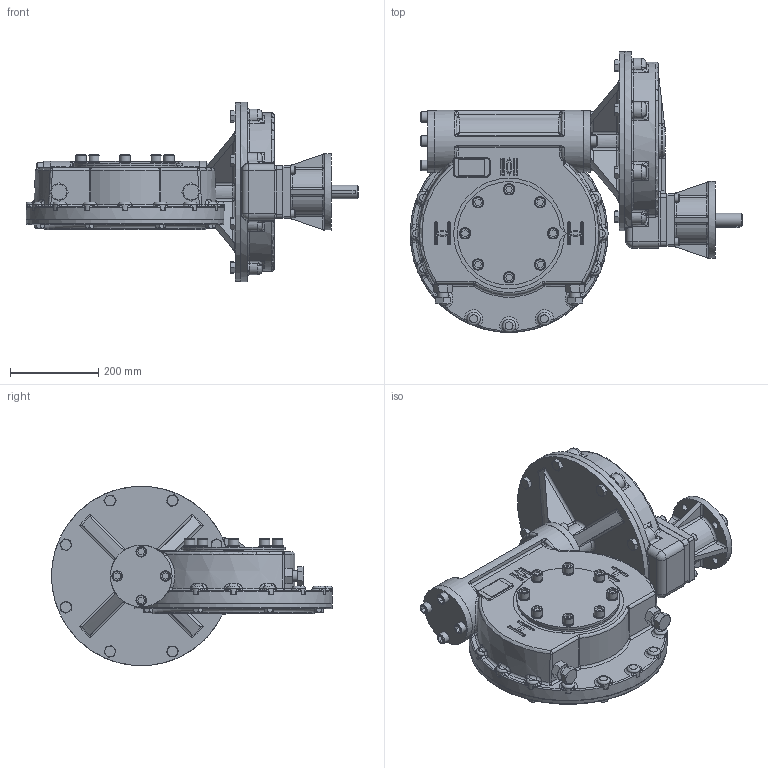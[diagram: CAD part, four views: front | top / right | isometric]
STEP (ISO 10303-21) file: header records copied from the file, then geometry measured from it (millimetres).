
FILE_DESCRIPTION(/* description */ ('Unknown'),/* implementation_level */ '2;1');
FILE_NAME(/* name */ 'PUB-IW7FBIRL-F14-F25',/* time_stamp */ '2016-06-28T13:22:59+01:00',/* author */ ('Unknown'),/* organization */ ('Unknown'),/* preprocessor_version */ 'ST-DEVELOPER v16',/* originating_system */ 'DEX',/* authorisation */ $);
FILE_SCHEMA (('AUTOMOTIVE_DESIGN {1 0 10303 214 3 1 1}'));
Products named in the file (1): PUB-IW7FBIRL-F14-F25
Bounding box: 754.5 x 638.63 x 408 mm (x, y, z)
Surface area: 1361960.1 mm2 (no closed solid volume)
Topology: 0 solids, 88 shells, 1359 faces, 4425 edges, 3026 vertices
Faces by surface type: plane 485, cylinder 279, bspline 225, cone 167, torus 153, sphere 50
Full cylindrical faces by diameter (mm): 12.5 x8, 13.835 x8, 16.5 x4, 18 x4, 24 x18, 30 x1, 50 x1, 100 x1, 140 x3, 170 x1, 175 x1, 230 x1, 251.5 x1, 408 x1
Entity records: 73980 total; most frequent: CARTESIAN_POINT 38077, ORIENTED_EDGE 6841, DIRECTION 6391, EDGE_CURVE 4172, VERTEX_POINT 2979, AXIS2_PLACEMENT_3D 2416, EDGE_LOOP 1610, FACE_BOUND 1610
